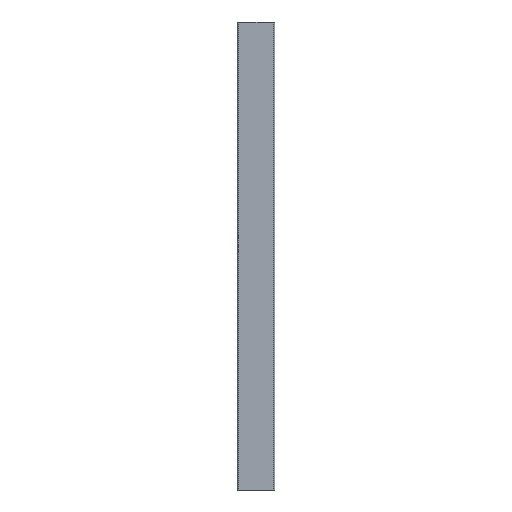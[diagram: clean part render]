
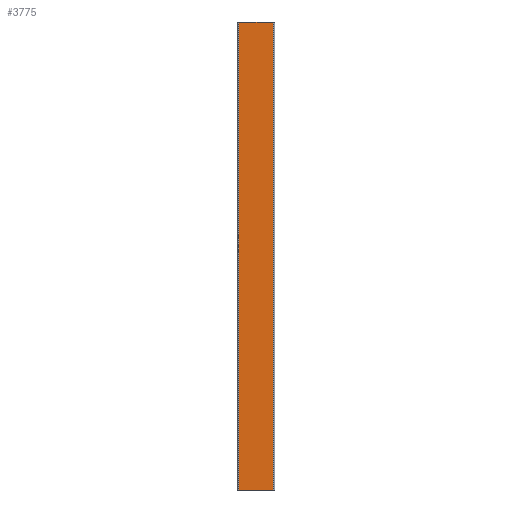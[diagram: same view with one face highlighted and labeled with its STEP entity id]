
A CAD part, front view. The second image highlights one B-rep face of the part: STEP entity #3775.
In plain terms, the highlighted planar face has unit normal (0, -1, 0).
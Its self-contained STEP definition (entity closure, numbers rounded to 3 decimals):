
#16 = CARTESIAN_POINT ( 'NONE',  ( 92.952, -63.085, 1000. ) ) ;
#217 = CARTESIAN_POINT ( 'NONE',  ( 92.952, -63.085, 1000. ) ) ;
#535 = DIRECTION ( 'NONE',  ( 1., 0., 0. ) ) ;
#632 = CARTESIAN_POINT ( 'NONE',  ( 92.952, -63.085, 0. ) ) ;
#692 = CARTESIAN_POINT ( 'NONE',  ( 92.952, -63.085, 1000. ) ) ;
#696 = AXIS2_PLACEMENT_3D ( 'NONE', #5974, #5808, #5763 ) ;
#822 = VECTOR ( 'NONE', #1216, 1000. ) ;
#927 = EDGE_CURVE ( 'NONE', #1212, #2797, #4671, .T. ) ;
#1046 = CARTESIAN_POINT ( 'NONE',  ( 92.952, -63.085, 0. ) ) ;
#1104 = ORIENTED_EDGE ( 'NONE', *, *, #1446, .F. ) ;
#1212 = VERTEX_POINT ( 'NONE', #5498 ) ;
#1216 = DIRECTION ( 'NONE',  ( 1., 0., 0. ) ) ;
#1225 = DIRECTION ( 'NONE',  ( 0., 0., -1. ) ) ;
#1446 = EDGE_CURVE ( 'NONE', #3321, #1212, #5454, .T. ) ;
#1534 = DIRECTION ( 'NONE',  ( 0., 0., -1. ) ) ;
#1970 = VECTOR ( 'NONE', #535, 1000. ) ;
#2012 = LINE ( 'NONE', #1046, #1970 ) ;
#2574 = CARTESIAN_POINT ( 'NONE',  ( 166.952, -63.085, 0. ) ) ;
#2797 = VERTEX_POINT ( 'NONE', #2574 ) ;
#3173 = ORIENTED_EDGE ( 'NONE', *, *, #4953, .T. ) ;
#3321 = VERTEX_POINT ( 'NONE', #217 ) ;
#3657 = EDGE_CURVE ( 'NONE', #3321, #5591, #3896, .T. ) ;
#3701 = VECTOR ( 'NONE', #1534, 1000. ) ;
#3775 = ADVANCED_FACE ( 'NONE', ( #3779 ), #6046, .F. ) ;
#3779 = FACE_OUTER_BOUND ( 'NONE', #4690, .T. ) ;
#3896 = LINE ( 'NONE', #692, #4030 ) ;
#4030 = VECTOR ( 'NONE', #1225, 1000. ) ;
#4050 = CARTESIAN_POINT ( 'NONE',  ( 166.952, -63.085, 1000. ) ) ;
#4239 = ORIENTED_EDGE ( 'NONE', *, *, #3657, .T. ) ;
#4671 = LINE ( 'NONE', #4050, #3701 ) ;
#4690 = EDGE_LOOP ( 'NONE', ( #3173, #5216, #1104, #4239 ) ) ;
#4953 = EDGE_CURVE ( 'NONE', #5591, #2797, #2012, .T. ) ;
#5216 = ORIENTED_EDGE ( 'NONE', *, *, #927, .F. ) ;
#5454 = LINE ( 'NONE', #16, #822 ) ;
#5498 = CARTESIAN_POINT ( 'NONE',  ( 166.952, -63.085, 1000. ) ) ;
#5591 = VERTEX_POINT ( 'NONE', #632 ) ;
#5763 = DIRECTION ( 'NONE',  ( 0., 0., 1. ) ) ;
#5808 = DIRECTION ( 'NONE',  ( 0., 1., 0. ) ) ;
#5974 = CARTESIAN_POINT ( 'NONE',  ( 92.952, -63.085, 1000. ) ) ;
#6046 = PLANE ( 'NONE',  #696 ) ;
